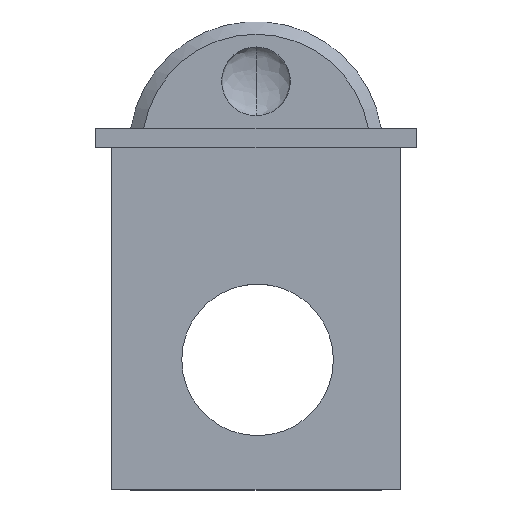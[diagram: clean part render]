
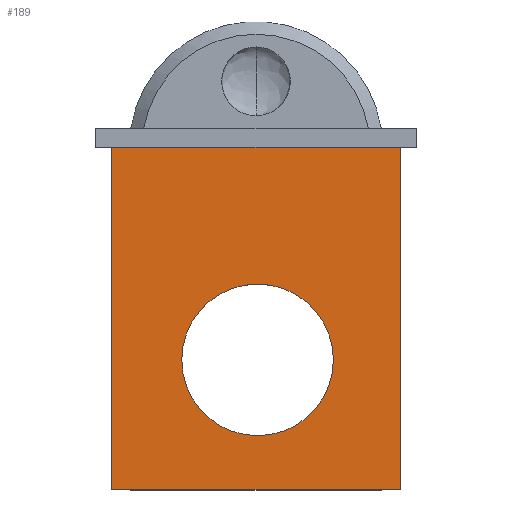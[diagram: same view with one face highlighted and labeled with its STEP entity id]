
A CAD part, top view. The second image highlights one B-rep face of the part: STEP entity #189.
In plain terms, the highlighted planar face has unit normal (0, 0, 1).
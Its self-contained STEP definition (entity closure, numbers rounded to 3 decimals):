
#4 = CARTESIAN_POINT ( 'NONE',  ( 22.75, 54., 4.75 ) ) ;
#51 = ORIENTED_EDGE ( 'NONE', *, *, #935, .T. ) ;
#72 = CARTESIAN_POINT ( 'NONE',  ( -22.75, 0., 4.75 ) ) ;
#95 = CARTESIAN_POINT ( 'NONE',  ( -22.75, 54., 4.75 ) ) ;
#101 = DIRECTION ( 'NONE',  ( 0., -1., 0. ) ) ;
#117 = CARTESIAN_POINT ( 'NONE',  ( 12.2, 20.5, 4.75 ) ) ;
#126 = CARTESIAN_POINT ( 'NONE',  ( -11.7, 20.5, 4.75 ) ) ;
#160 = VERTEX_POINT ( 'NONE', #126 ) ;
#168 = AXIS2_PLACEMENT_3D ( 'NONE', #730, #735, #743 ) ;
#188 = CARTESIAN_POINT ( 'NONE',  ( 19.75, 0., 4.75 ) ) ;
#189 = ADVANCED_FACE ( 'NONE', ( #545, #562 ), #1025, .F. ) ;
#200 = ORIENTED_EDGE ( 'NONE', *, *, #767, .T. ) ;
#253 = DIRECTION ( 'NONE',  ( 1., 0., 0. ) ) ;
#280 = CIRCLE ( 'NONE', #1118, 11.95 ) ;
#281 = CARTESIAN_POINT ( 'NONE',  ( 19.75, 54., 4.75 ) ) ;
#293 = DIRECTION ( 'NONE',  ( 1., 0., 0. ) ) ;
#317 = VECTOR ( 'NONE', #101, 1000. ) ;
#326 = LINE ( 'NONE', #95, #317 ) ;
#327 = CARTESIAN_POINT ( 'NONE',  ( 22.75, 0., 4.75 ) ) ;
#397 = VECTOR ( 'NONE', #293, 1000. ) ;
#430 = LINE ( 'NONE', #711, #397 ) ;
#432 = VECTOR ( 'NONE', #854, 1000. ) ;
#478 = CIRCLE ( 'NONE', #168, 11.95 ) ;
#480 = VECTOR ( 'NONE', #253, 1000. ) ;
#483 = LINE ( 'NONE', #835, #432 ) ;
#510 = LINE ( 'NONE', #188, #480 ) ;
#545 = FACE_BOUND ( 'NONE', #665, .T. ) ;
#562 = FACE_OUTER_BOUND ( 'NONE', #1042, .T. ) ;
#573 = ORIENTED_EDGE ( 'NONE', *, *, #972, .T. ) ;
#597 = VERTEX_POINT ( 'NONE', #870 ) ;
#625 = VERTEX_POINT ( 'NONE', #4 ) ;
#635 = VERTEX_POINT ( 'NONE', #72 ) ;
#665 = EDGE_LOOP ( 'NONE', ( #200, #573 ) ) ;
#686 = VERTEX_POINT ( 'NONE', #117 ) ;
#693 = ORIENTED_EDGE ( 'NONE', *, *, #843, .F. ) ;
#711 = CARTESIAN_POINT ( 'NONE',  ( -22.75, 54., 4.75 ) ) ;
#722 = ORIENTED_EDGE ( 'NONE', *, *, #777, .F. ) ;
#730 = CARTESIAN_POINT ( 'NONE',  ( 0.25, 20.5, 4.75 ) ) ;
#735 = DIRECTION ( 'NONE',  ( 0., 0., -1. ) ) ;
#742 = EDGE_CURVE ( 'NONE', #635, #747, #510, .T. ) ;
#743 = DIRECTION ( 'NONE',  ( -1., 0., 0. ) ) ;
#747 = VERTEX_POINT ( 'NONE', #327 ) ;
#767 = EDGE_CURVE ( 'NONE', #160, #686, #478, .T. ) ;
#777 = EDGE_CURVE ( 'NONE', #625, #747, #483, .T. ) ;
#835 = CARTESIAN_POINT ( 'NONE',  ( 22.75, 54., 4.75 ) ) ;
#843 = EDGE_CURVE ( 'NONE', #597, #625, #430, .T. ) ;
#854 = DIRECTION ( 'NONE',  ( 0., -1., 0. ) ) ;
#870 = CARTESIAN_POINT ( 'NONE',  ( -22.75, 54., 4.75 ) ) ;
#906 = AXIS2_PLACEMENT_3D ( 'NONE', #281, #1028, #1032 ) ;
#922 = CARTESIAN_POINT ( 'NONE',  ( 0.25, 20.5, 4.75 ) ) ;
#925 = DIRECTION ( 'NONE',  ( 0., 0., -1. ) ) ;
#929 = DIRECTION ( 'NONE',  ( -1., 0., 0. ) ) ;
#935 = EDGE_CURVE ( 'NONE', #597, #635, #326, .T. ) ;
#972 = EDGE_CURVE ( 'NONE', #686, #160, #280, .T. ) ;
#1025 = PLANE ( 'NONE',  #906 ) ;
#1028 = DIRECTION ( 'NONE',  ( 0., 0., -1. ) ) ;
#1032 = DIRECTION ( 'NONE',  ( -1., 0., 0. ) ) ;
#1042 = EDGE_LOOP ( 'NONE', ( #1133, #722, #693, #51 ) ) ;
#1118 = AXIS2_PLACEMENT_3D ( 'NONE', #922, #925, #929 ) ;
#1133 = ORIENTED_EDGE ( 'NONE', *, *, #742, .T. ) ;
